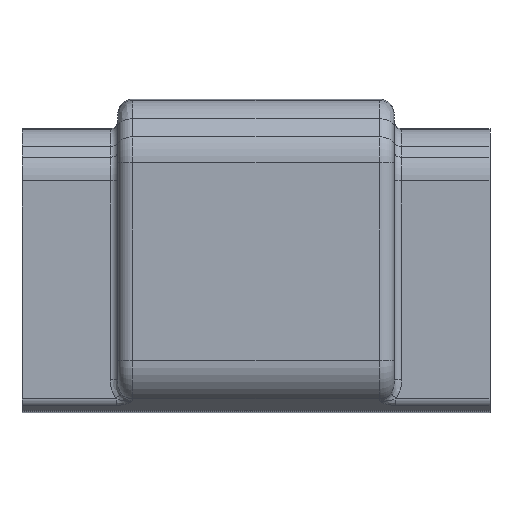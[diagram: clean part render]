
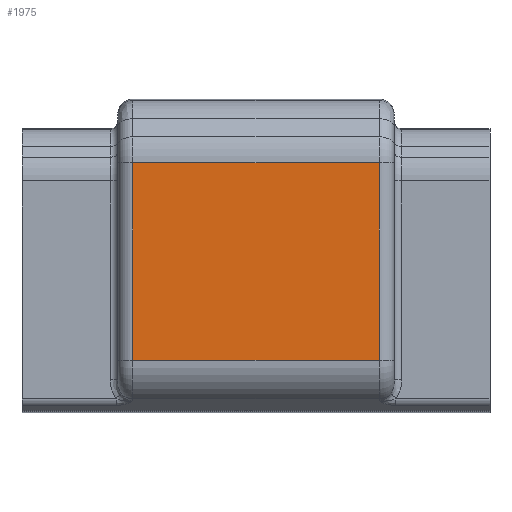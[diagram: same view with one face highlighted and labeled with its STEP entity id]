
A CAD part, left-side view. The second image highlights one B-rep face of the part: STEP entity #1975.
In plain terms, the highlighted planar face has unit normal (-1, 0, 0).
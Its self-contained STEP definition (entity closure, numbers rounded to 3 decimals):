
#90=PLANE('',#2115);
#247=ORIENTED_EDGE('',*,*,#865,.F.);
#248=ORIENTED_EDGE('',*,*,#866,.T.);
#249=ORIENTED_EDGE('',*,*,#861,.T.);
#250=ORIENTED_EDGE('',*,*,#867,.F.);
#861=EDGE_CURVE('',#1170,#1171,#1356,.T.);
#865=EDGE_CURVE('',#1174,#1175,#1358,.T.);
#866=EDGE_CURVE('',#1174,#1170,#1359,.F.);
#867=EDGE_CURVE('',#1175,#1171,#1360,.F.);
#1170=VERTEX_POINT('',#2979);
#1171=VERTEX_POINT('',#2980);
#1174=VERTEX_POINT('',#2988);
#1175=VERTEX_POINT('',#2989);
#1356=LINE('',#2978,#1513);
#1358=LINE('',#2987,#1515);
#1359=LINE('',#2990,#1516);
#1360=LINE('',#2991,#1517);
#1513=VECTOR('',#2351,1000.);
#1515=VECTOR('',#2359,1000.);
#1516=VECTOR('',#2360,1000.);
#1517=VECTOR('',#2361,1000.);
#1671=EDGE_LOOP('',(#247,#248,#249,#250));
#1796=FACE_BOUND('',#1671,.T.);
#1975=ADVANCED_FACE('',(#1796),#90,.F.);
#2115=AXIS2_PLACEMENT_3D('',#2986,#2357,#2358);
#2351=DIRECTION('',(0.,1.,0.));
#2357=DIRECTION('',(1.,0.,0.));
#2358=DIRECTION('',(0.,0.,-1.));
#2359=DIRECTION('',(0.,1.,0.));
#2360=DIRECTION('',(0.,0.,-1.));
#2361=DIRECTION('',(0.,0.,-1.));
#2978=CARTESIAN_POINT('',(-37.3,-62.5,28.706));
#2979=CARTESIAN_POINT('',(-37.3,-32.9,28.706));
#2980=CARTESIAN_POINT('',(-37.3,32.9,28.706));
#2986=CARTESIAN_POINT('',(-37.3,-62.5,28.706));
#2987=CARTESIAN_POINT('',(-37.3,-62.5,-24.055));
#2988=CARTESIAN_POINT('',(-37.3,-32.9,-24.055));
#2989=CARTESIAN_POINT('',(-37.3,32.9,-24.055));
#2990=CARTESIAN_POINT('',(-37.3,-32.9,28.706));
#2991=CARTESIAN_POINT('',(-37.3,32.9,28.706));
